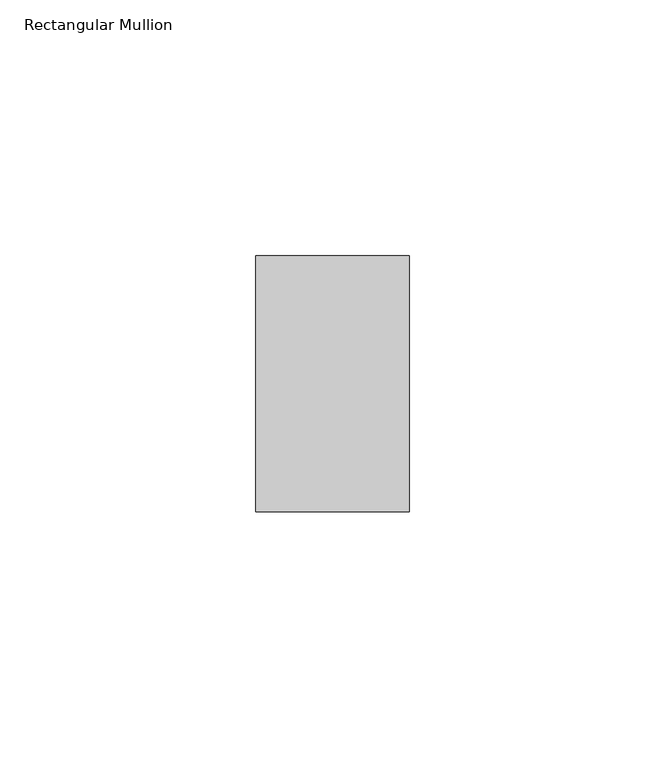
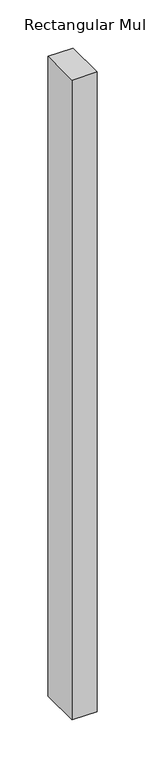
"""IFC4 building model written with IfcOpenShell, lengths in millimetres: member geometry, Rectangular Mullion : ARQ_TV_MULL_50x30mm."""

from ifc_helpers import new_model, si_unit, frame, origin, place, context, project, spatial, polyline, outline, extrude, source, transform, mapped, element, save


def rectangular_mullion_127908d6(model_context):
    return source(origin(), model_context, "Body", "SweptSolid", [
        extrude(outline(polyline([(0.0, 25.0), (0.0, -25.0), (-30.0, -25.0), (-30.0, 25.0), (0.0, 25.0)])), frame((0.0, 0.0, -811.6705252), z_axis=(0.0, 0.0, 1.0), x_axis=(1.0, 0.0, 0.0)), (0.0, 0.0, 1.0), 811.6705252),
    ])


if __name__ == "__main__":
    model = new_model("IFC4")
    model_context = context("Model", 3, world=origin())
    ifc_project = project(units=[si_unit("LENGTHUNIT", "METRE", prefix="MILLI")], contexts=[model_context])
    site = spatial("IfcSite", under=ifc_project)
    building = spatial("IfcBuilding", under=site)
    placement = place(None, origin())
    rectangular_mullion_shape = rectangular_mullion_127908d6(model_context)
    element("IfcMember", 1, ObjectType="Rectangular Mullion : ARQ_TV_MULL_50x30mm", at=placement, inside=building, context=model_context, shape_type="MappedRepresentation", body=[
        mapped(rectangular_mullion_shape, transform((0.0, 0.0, 0.0), x_axis=(1.0, 0.0, 0.0), y_axis=(0.0, 1.0, 0.0), z_axis=(0.0, 0.0, 1.0))),
    ])
    save(model, "model.ifc")
